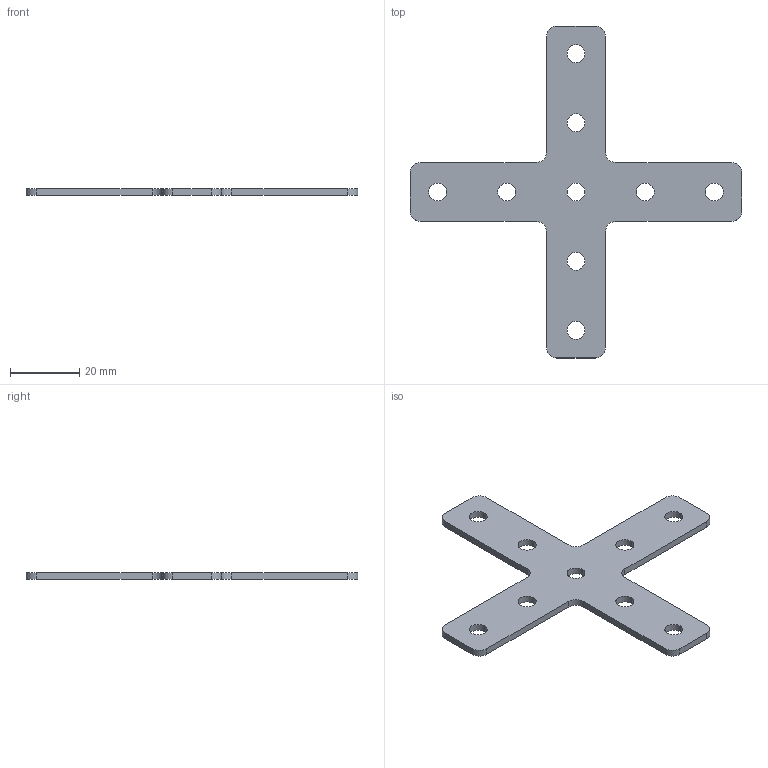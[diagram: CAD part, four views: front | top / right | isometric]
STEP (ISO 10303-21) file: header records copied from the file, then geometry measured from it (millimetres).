
FILE_DESCRIPTION (( 'STEP AP214' ), '1' );
FILE_NAME ('Õ-9-20.STEP', '2021-04-29T09:50:19', ( 'Home' ), ( '' ), 'SwSTEP 2.0', 'SolidWorks 2020', '' );
FILE_SCHEMA (( 'AUTOMOTIVE_DESIGN' ));
Length unit declared in the file: millimetre
Products named in the file (1): ﾕ-9-20
Bounding box: 96 x 96 x 2 mm (x, y, z)
Volume: 5552.3 mm3; surface area: 6583.4 mm2
Topology: 1 solids, 1 shells, 44 faces, 126 edges, 84 vertices
Faces by surface type: cylinder 30, plane 14
Entity records: 1540 total; most frequent: DIRECTION 276, CARTESIAN_POINT 255, ORIENTED_EDGE 252, EDGE_CURVE 126, AXIS2_PLACEMENT_3D 105, VERTEX_POINT 84, LINE 66, VECTOR 66
